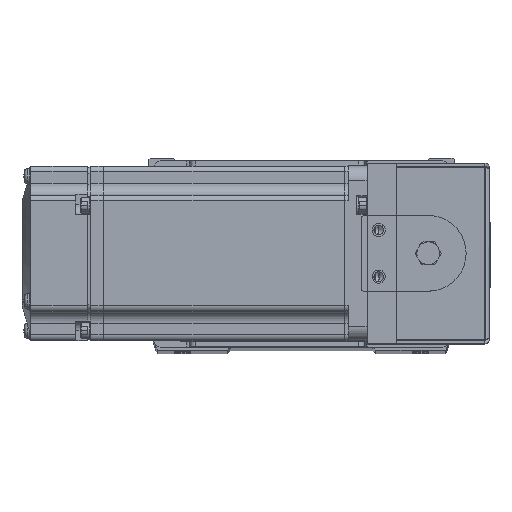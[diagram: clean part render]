
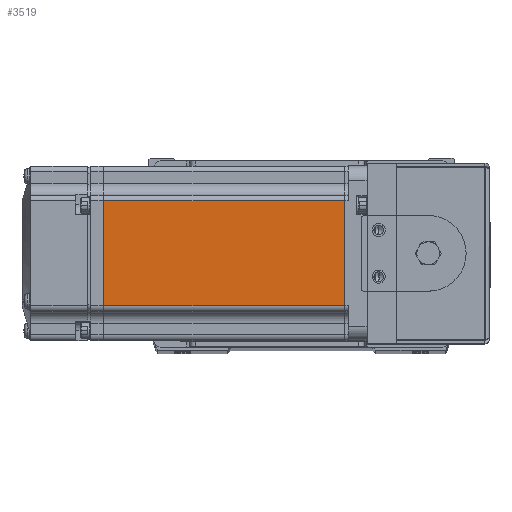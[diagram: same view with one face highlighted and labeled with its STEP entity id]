
A CAD part, top view. The second image highlights one B-rep face of the part: STEP entity #3519.
In plain terms, the highlighted planar face has unit normal (0, 0, 1) as drawn and (0, -1, 0) by its records, which use the part's own axes.
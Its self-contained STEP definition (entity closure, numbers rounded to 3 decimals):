
#2173 = CARTESIAN_POINT ( 'NONE',  ( -7.75, -30., -18. ) ) ;
#3519 = ADVANCED_FACE ( 'NONE', ( #21793 ), #29277, .T. ) ;
#3617 = LINE ( 'NONE', #40416, #26982 ) ;
#3664 = EDGE_CURVE ( 'NONE', #5148, #9515, #15301, .T. ) ;
#4419 = ORIENTED_EDGE ( 'NONE', *, *, #3664, .F. ) ;
#5148 = VERTEX_POINT ( 'NONE', #2173 ) ;
#6095 = CARTESIAN_POINT ( 'NONE',  ( -90.45, -30., -18. ) ) ;
#7933 = EDGE_CURVE ( 'NONE', #42966, #9515, #11975, .T. ) ;
#7969 = VERTEX_POINT ( 'NONE', #8366 ) ;
#8366 = CARTESIAN_POINT ( 'NONE',  ( -7.75, -30., 18. ) ) ;
#8835 = DIRECTION ( 'NONE',  ( 0., 0., -1. ) ) ;
#9515 = VERTEX_POINT ( 'NONE', #6095 ) ;
#10204 = VECTOR ( 'NONE', #11694, 1000. ) ;
#10826 = DIRECTION ( 'NONE',  ( -1., 0., 0. ) ) ;
#11694 = DIRECTION ( 'NONE',  ( -1., 0., 0. ) ) ;
#11975 = LINE ( 'NONE', #12423, #38845 ) ;
#12423 = CARTESIAN_POINT ( 'NONE',  ( -90.45, -30., 0. ) ) ;
#12996 = EDGE_CURVE ( 'NONE', #7969, #42966, #36571, .T. ) ;
#13862 = DIRECTION ( 'NONE',  ( 0., -1., 0. ) ) ;
#15301 = LINE ( 'NONE', #44651, #10204 ) ;
#15956 = CARTESIAN_POINT ( 'NONE',  ( -90.45, -30., 18. ) ) ;
#21793 = FACE_OUTER_BOUND ( 'NONE', #41906, .T. ) ;
#22118 = DIRECTION ( 'NONE',  ( 0., 0., -1. ) ) ;
#22277 = DIRECTION ( 'NONE',  ( 0., 0., -1. ) ) ;
#25165 = EDGE_CURVE ( 'NONE', #7969, #5148, #3617, .T. ) ;
#25415 = CARTESIAN_POINT ( 'NONE',  ( -6.5, -30., -25. ) ) ;
#26982 = VECTOR ( 'NONE', #22118, 1000. ) ;
#29277 = PLANE ( 'NONE',  #37868 ) ;
#33969 = ORIENTED_EDGE ( 'NONE', *, *, #7933, .T. ) ;
#34970 = ORIENTED_EDGE ( 'NONE', *, *, #25165, .F. ) ;
#36571 = LINE ( 'NONE', #39226, #46607 ) ;
#37868 = AXIS2_PLACEMENT_3D ( 'NONE', #25415, #13862, #22277 ) ;
#38845 = VECTOR ( 'NONE', #8835, 1000. ) ;
#39226 = CARTESIAN_POINT ( 'NONE',  ( -6.5, -30., 18. ) ) ;
#40416 = CARTESIAN_POINT ( 'NONE',  ( -7.75, -30., 0. ) ) ;
#41906 = EDGE_LOOP ( 'NONE', ( #34970, #42291, #33969, #4419 ) ) ;
#42291 = ORIENTED_EDGE ( 'NONE', *, *, #12996, .T. ) ;
#42966 = VERTEX_POINT ( 'NONE', #15956 ) ;
#44651 = CARTESIAN_POINT ( 'NONE',  ( -6.5, -30., -18. ) ) ;
#46607 = VECTOR ( 'NONE', #10826, 1000. ) ;
